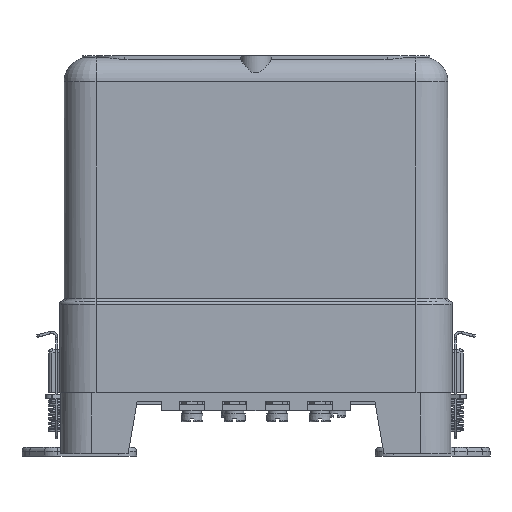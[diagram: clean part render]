
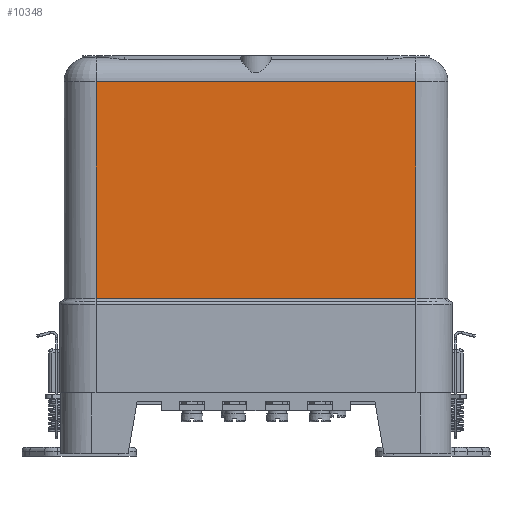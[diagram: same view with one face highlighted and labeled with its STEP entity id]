
A CAD part, left-side view. The second image highlights one B-rep face of the part: STEP entity #10348.
In plain terms, the highlighted planar face has unit normal (-1, 0, 0).
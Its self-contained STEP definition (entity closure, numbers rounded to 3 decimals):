
#10348=ADVANCED_FACE('',(#25963),#25965,.T.);
#25963=FACE_BOUND('',#25964,.T.);
#25964=EDGE_LOOP('',(#38586,#38587,#38588,#38589));
#25965=PLANE('',#25966);
#25966=AXIS2_PLACEMENT_3D('',#25967,#25968,#25969);
#25967=CARTESIAN_POINT('',(-44.5,52.5,50.));
#25968=DIRECTION('',(-1.,0.,0.));
#25969=DIRECTION('',(0.,-1.,0.));
#38586=ORIENTED_EDGE('',*,*,#42822,.T.);
#38587=ORIENTED_EDGE('',*,*,#42818,.T.);
#38588=ORIENTED_EDGE('',*,*,#43076,.F.);
#38589=ORIENTED_EDGE('',*,*,#42823,.F.);
#42818=EDGE_CURVE('',#48279,#48283,#48285,.T.);
#42822=EDGE_CURVE('',#48287,#48279,#48290,.T.);
#42823=EDGE_CURVE('',#48287,#48291,#48292,.T.);
#43076=EDGE_CURVE('',#48291,#48283,#48681,.T.);
#48279=VERTEX_POINT('',#61933);
#48283=VERTEX_POINT('',#61942);
#48285=LINE('',#61947,#61948);
#48287=VERTEX_POINT('',#61954);
#48290=LINE('',#61963,#61964);
#48291=VERTEX_POINT('',#61966);
#48292=LINE('',#61967,#61968);
#48681=LINE('',#63404,#63405);
#61933=CARTESIAN_POINT('',(-44.5,-52.5,51.));
#61942=CARTESIAN_POINT('',(-44.5,-52.5,122.));
#61947=CARTESIAN_POINT('',(-44.5,-52.5,51.));
#61948=VECTOR('',#61949,1.);
#61949=DIRECTION('',(0.,0.,1.));
#61954=CARTESIAN_POINT('',(-44.5,52.5,51.));
#61963=CARTESIAN_POINT('',(-44.5,52.5,51.));
#61964=VECTOR('',#61965,1.);
#61965=DIRECTION('',(0.,-1.,0.));
#61966=CARTESIAN_POINT('',(-44.5,52.5,122.));
#61967=CARTESIAN_POINT('',(-44.5,52.5,51.));
#61968=VECTOR('',#61969,1.);
#61969=DIRECTION('',(0.,0.,1.));
#63404=CARTESIAN_POINT('',(-44.5,52.5,122.));
#63405=VECTOR('',#63406,1.);
#63406=DIRECTION('',(0.,-1.,0.));
